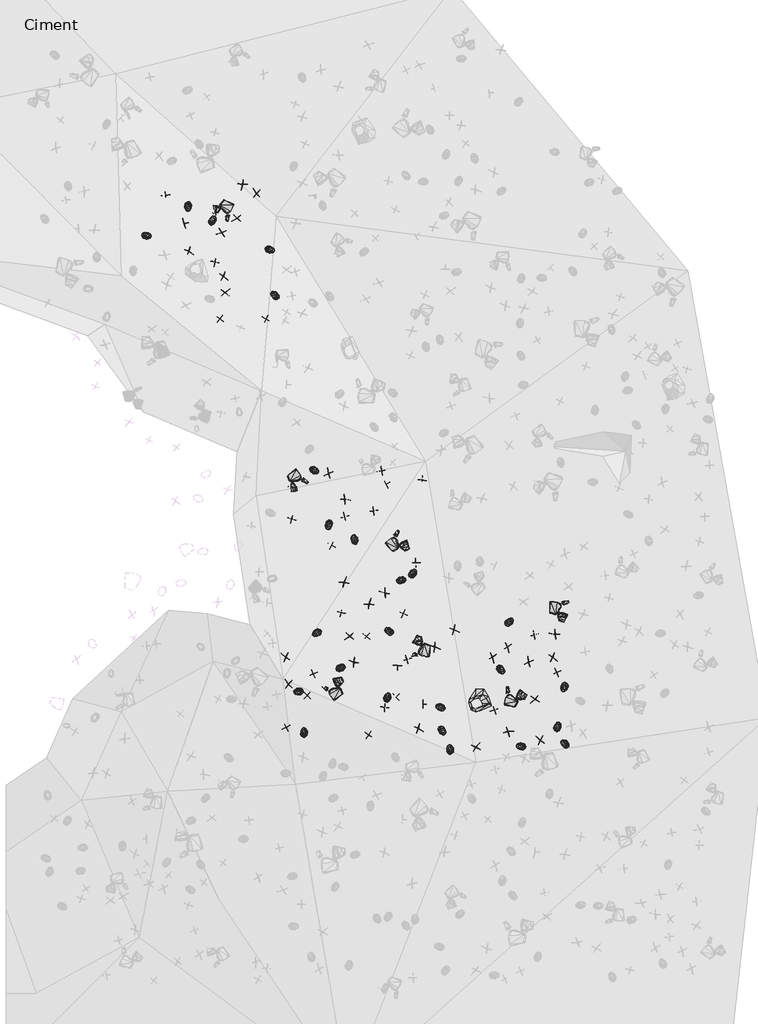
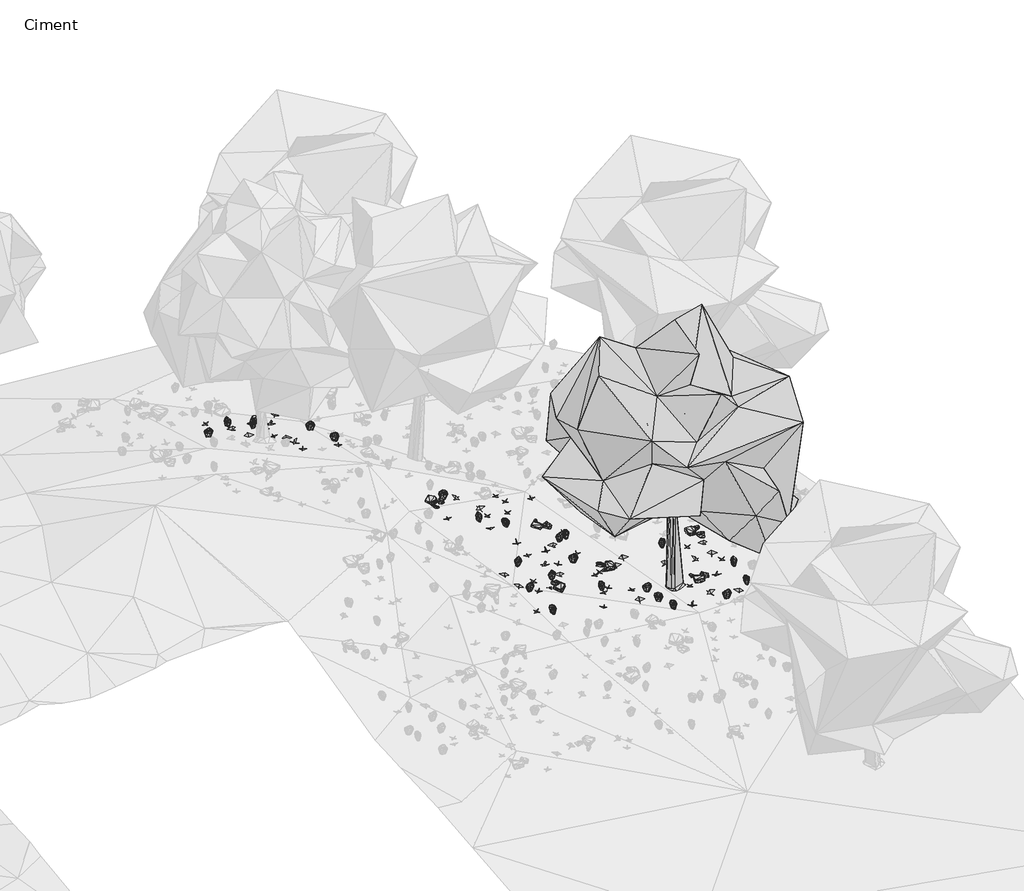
# One storey, part 26 of 30: 89 geographic elements.
"""IFC4 building model written with IfcOpenShell, lengths in millimetres."""

from ifc_helpers import new_model, si_unit, origin, place, context, project, spatial, transform, mapped, element, save
from components import enscape_assetdefinition_bush_025_fern_enscape_5718bf32, enscape_assetdefinition_bush_054_plant_09_version_2_enscape_7b546a12, enscape_assetdefinition_bush_062_plant_09_version_3_enscape_ccf8c8eb, enscape_assetdefinition_deciduous_tree_029_elm_enscape_e4c49baf, enscape_assetdefinition_stone_013_group_enscape_db9b3e91

model = new_model("IFC4")

# Units and contexts
model_context = context("Model", 3, world=origin())
ifc_project = project(units=[si_unit("LENGTHUNIT", "METRE", prefix="MILLI")], contexts=[model_context])

# Site, building, storey
site = spatial("IfcSite", under=ifc_project)
building = spatial("IfcBuilding", under=site)
storey = spatial("IfcBuildingStorey", under=building, Name="Ciment", Elevation=-1500.0)

# Geographic elements
placement = place(None, origin())
enscape_assetdefinition_bush_025_fern_enscape_shape = enscape_assetdefinition_bush_025_fern_enscape_5718bf32(model_context)
element("IfcGeographicElement", 1, ObjectType="Enscape AssetDefinition - Bush 025 Fern : Enscape AssetDefinition - Bush 025 Fern", at=placement, inside=storey, context=model_context, shape_type="MappedRepresentation", body=[
    mapped(enscape_assetdefinition_bush_025_fern_enscape_shape, transform((23926.2695312, 1776.0066986, -2337.3422623), x_axis=(-0.18273078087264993, -0.9831629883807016, 0.0), y_axis=(0.9831629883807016, -0.18273078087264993, 0.0), z_axis=(0.0, 0.0, 1.0))),
])
element("IfcGeographicElement", 2, ObjectType="Enscape AssetDefinition - Bush 025 Fern : Enscape AssetDefinition - Bush 025 Fern", at=placement, inside=storey, context=model_context, shape_type="MappedRepresentation", body=[
    mapped(enscape_assetdefinition_bush_025_fern_enscape_shape, transform((18059.5607758, 5916.6049957, -1291.4916277), x_axis=(-0.42482304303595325, 0.9052764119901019, 0.0), y_axis=(-0.9052764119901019, -0.42482304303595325, 0.0), z_axis=(0.0, 0.0, 1.0))),
])
element("IfcGeographicElement", 3, ObjectType="Enscape AssetDefinition - Bush 025 Fern : Enscape AssetDefinition - Bush 025 Fern", at=placement, inside=storey, context=model_context, shape_type="MappedRepresentation", body=[
    mapped(enscape_assetdefinition_bush_025_fern_enscape_shape, transform((19696.0964203, 4962.3126984, -1738.1078005), x_axis=(0.4772432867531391, 0.8787712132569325, 0.0), y_axis=(-0.8787712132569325, 0.4772432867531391, 0.0), z_axis=(0.0, 0.0, 1.0))),
])
element("IfcGeographicElement", 4, ObjectType="Enscape AssetDefinition - Bush 025 Fern : Enscape AssetDefinition - Bush 025 Fern", at=placement, inside=storey, context=model_context, shape_type="MappedRepresentation", body=[
    mapped(enscape_assetdefinition_bush_025_fern_enscape_shape, transform((16648.1685638, 517.5495148, -840.7158852), x_axis=(-0.15762662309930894, 0.9874987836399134, 0.0), y_axis=(-0.9874987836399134, -0.15762662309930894, 0.0), z_axis=(0.0, 0.0, 1.0))),
])
element("IfcGeographicElement", 5, ObjectType="Enscape AssetDefinition - Bush 025 Fern : Enscape AssetDefinition - Bush 025 Fern", at=placement, inside=storey, context=model_context, shape_type="MappedRepresentation", body=[
    mapped(enscape_assetdefinition_bush_025_fern_enscape_shape, transform((15694.0793991, 14011.3630295, -1689.8765564), x_axis=(0.9825996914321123, -0.18573595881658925, 0.0), y_axis=(0.18573595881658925, 0.9825996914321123, 0.0), z_axis=(0.0, 0.0, 1.0))),
])
element("IfcGeographicElement", 6, ObjectType="Enscape AssetDefinition - Bush 025 Fern : Enscape AssetDefinition - Bush 025 Fern", at=placement, inside=storey, context=model_context, shape_type="MappedRepresentation", body=[
    mapped(enscape_assetdefinition_bush_025_fern_enscape_shape, transform((22715.9519196, 129.0016174, -2159.6267223), x_axis=(-0.9994012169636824, 0.03460068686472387, 0.0), y_axis=(-0.03460068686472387, -0.9994012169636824, 0.0), z_axis=(0.0, 0.0, 1.0))),
])
element("IfcGeographicElement", 7, ObjectType="Enscape AssetDefinition - Bush 025 Fern : Enscape AssetDefinition - Bush 025 Fern", at=placement, inside=storey, context=model_context, shape_type="MappedRepresentation", body=[
    mapped(enscape_assetdefinition_bush_025_fern_enscape_shape, transform((17332.6911926, 6313.7497902, -1086.1005783), x_axis=(-0.059287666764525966, -0.9982409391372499, 0.0), y_axis=(0.9982409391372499, -0.059287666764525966, 0.0), z_axis=(0.0, 0.0, 1.0))),
])
element("IfcGeographicElement", 8, ObjectType="Enscape AssetDefinition - Bush 025 Fern : Enscape AssetDefinition - Bush 025 Fern", at=placement, inside=storey, context=model_context, shape_type="MappedRepresentation", body=[
    mapped(enscape_assetdefinition_bush_025_fern_enscape_shape, transform((14089.5290375, 14839.1876221, -1541.0094261), x_axis=(0.3726841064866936, 0.9279582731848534, 0.0), y_axis=(-0.9279582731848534, 0.3726841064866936, 0.0), z_axis=(0.0, 0.0, 1.0))),
])
element("IfcGeographicElement", 9, ObjectType="Enscape AssetDefinition - Bush 025 Fern : Enscape AssetDefinition - Bush 025 Fern", at=placement, inside=storey, context=model_context, shape_type="MappedRepresentation", body=[
    mapped(enscape_assetdefinition_bush_025_fern_enscape_shape, transform((16934.8773956, 7837.7389908, -1009.9309683), x_axis=(0.9416827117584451, -0.3365021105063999, 0.0), y_axis=(0.3365021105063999, 0.9416827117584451, 0.0), z_axis=(0.0, 0.0, 1.0))),
])
element("IfcGeographicElement", 10, ObjectType="Enscape AssetDefinition - Bush 025 Fern : Enscape AssetDefinition - Bush 025 Fern", at=placement, inside=storey, context=model_context, shape_type="MappedRepresentation", body=[
    mapped(enscape_assetdefinition_bush_025_fern_enscape_shape, transform((20458.5056305, 1223.9170074, -1778.7290812), x_axis=(-0.9866170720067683, 0.16305444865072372, 0.0), y_axis=(-0.16305444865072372, -0.9866170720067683, 0.0), z_axis=(0.0, 0.0, 1.0))),
])
element("IfcGeographicElement", 11, ObjectType="Enscape AssetDefinition - Bush 025 Fern : Enscape AssetDefinition - Bush 025 Fern", at=placement, inside=storey, context=model_context, shape_type="MappedRepresentation", body=[
    mapped(enscape_assetdefinition_bush_025_fern_enscape_shape, transform((18983.4918976, 1495.8802462, -1350.561142), x_axis=(0.21262860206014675, 0.977133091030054, 0.0), y_axis=(-0.977133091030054, 0.21262860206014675, 0.0), z_axis=(0.0, 0.0, 1.0))),
])
element("IfcGeographicElement", 12, ObjectType="Enscape AssetDefinition - Bush 025 Fern : Enscape AssetDefinition - Bush 025 Fern", at=placement, inside=storey, context=model_context, shape_type="MappedRepresentation", body=[
    mapped(enscape_assetdefinition_bush_025_fern_enscape_shape, transform((19022.6192474, 3351.5052795, -1455.4755688), x_axis=(-0.8870598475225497, 0.46165444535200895, 0.0), y_axis=(-0.46165444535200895, -0.8870598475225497, 0.0), z_axis=(0.0, 0.0, 1.0))),
])
element("IfcGeographicElement", 13, ObjectType="Enscape AssetDefinition - Bush 025 Fern : Enscape AssetDefinition - Bush 025 Fern", at=placement, inside=storey, context=model_context, shape_type="MappedRepresentation", body=[
    mapped(enscape_assetdefinition_bush_025_fern_enscape_shape, transform((22152.4944305, 2260.4525089, -2134.9875927), x_axis=(0.7563017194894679, -0.6542229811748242, 0.0), y_axis=(0.6542229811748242, 0.7563017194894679, 0.0), z_axis=(0.0, 0.0, 1.0))),
])
element("IfcGeographicElement", 14, ObjectType="Enscape AssetDefinition - Bush 025 Fern : Enscape AssetDefinition - Bush 025 Fern", at=placement, inside=storey, context=model_context, shape_type="MappedRepresentation", body=[
    mapped(enscape_assetdefinition_bush_025_fern_enscape_shape, transform((12240.2210236, 14400.5460739, -975.1880169), x_axis=(0.9999616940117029, -0.008752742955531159, 0.0), y_axis=(0.008752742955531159, 0.9999616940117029, 0.0), z_axis=(0.0, 0.0, 1.0))),
])
element("IfcGeographicElement", 15, ObjectType="Enscape AssetDefinition - Bush 025 Fern : Enscape AssetDefinition - Bush 025 Fern", at=placement, inside=storey, context=model_context, shape_type="MappedRepresentation", body=[
    mapped(enscape_assetdefinition_bush_025_fern_enscape_shape, transform((22392.7516937, 3604.7799587, -2190.659523), x_axis=(0.6478010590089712, 0.7618095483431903, 0.0), y_axis=(-0.7618095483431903, 0.6478010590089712, 0.0), z_axis=(0.0, 0.0, 1.0))),
])
element("IfcGeographicElement", 16, ObjectType="Enscape AssetDefinition - Bush 025 Fern : Enscape AssetDefinition - Bush 025 Fern", at=placement, inside=storey, context=model_context, shape_type="MappedRepresentation", body=[
    mapped(enscape_assetdefinition_bush_025_fern_enscape_shape, transform((19353.1131744, 4772.7069855, -1625.8480549), x_axis=(-0.9123148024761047, -0.40948956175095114, 0.0), y_axis=(0.40948956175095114, -0.9123148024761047, 0.0), z_axis=(0.0, 0.0, 1.0))),
])
element("IfcGeographicElement", 17, ObjectType="Enscape AssetDefinition - Bush 025 Fern : Enscape AssetDefinition - Bush 025 Fern", at=placement, inside=storey, context=model_context, shape_type="MappedRepresentation", body=[
    mapped(enscape_assetdefinition_bush_025_fern_enscape_shape, transform((15824.0299225, 12747.9019165, -1388.1953955), x_axis=(-0.817583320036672, 0.5758103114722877, 0.0), y_axis=(-0.5758103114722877, -0.817583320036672, 0.0), z_axis=(0.0, 0.0, 1.0))),
])
element("IfcGeographicElement", 18, ObjectType="Enscape AssetDefinition - Bush 025 Fern : Enscape AssetDefinition - Bush 025 Fern", at=placement, inside=storey, context=model_context, shape_type="MappedRepresentation", body=[
    mapped(enscape_assetdefinition_bush_025_fern_enscape_shape, transform((13393.5642242, 15216.2017822, -1475.5231142), x_axis=(0.059132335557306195, -0.998250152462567, 0.0), y_axis=(0.998250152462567, 0.059132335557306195, 0.0), z_axis=(0.0, 0.0, 1.0))),
])
element("IfcGeographicElement", 19, ObjectType="Enscape AssetDefinition - Bush 025 Fern : Enscape AssetDefinition - Bush 025 Fern", at=placement, inside=storey, context=model_context, shape_type="MappedRepresentation", body=[
    mapped(enscape_assetdefinition_bush_025_fern_enscape_shape, transform((16994.5888519, 3296.0319519, -845.2128172), x_axis=(-0.7621856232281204, -0.6473585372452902, 0.0), y_axis=(0.6473585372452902, -0.7621856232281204, 0.0), z_axis=(0.0, 0.0, 1.0))),
])
element("IfcGeographicElement", 20, ObjectType="Enscape AssetDefinition - Bush 025 Fern : Enscape AssetDefinition - Bush 025 Fern", at=placement, inside=storey, context=model_context, shape_type="MappedRepresentation", body=[
    mapped(enscape_assetdefinition_bush_025_fern_enscape_shape, transform((23945.9114075, 200.2258301, -2308.1035614), x_axis=(-0.8203707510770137, 0.5718319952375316, 0.0), y_axis=(-0.5718319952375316, -0.8203707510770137, 0.0), z_axis=(0.0, 0.0, 1.0))),
])
element("IfcGeographicElement", 21, ObjectType="Enscape AssetDefinition - Bush 025 Fern : Enscape AssetDefinition - Bush 025 Fern", at=placement, inside=storey, context=model_context, shape_type="MappedRepresentation", body=[
    mapped(enscape_assetdefinition_bush_025_fern_enscape_shape, transform((20507.5359344, 555.639267, -1759.8537207), x_axis=(0.6537257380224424, -0.7567315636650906, 0.0), y_axis=(0.7567315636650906, 0.6537257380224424, 0.0), z_axis=(0.0, 0.0, 1.0))),
])
element("IfcGeographicElement", 22, ObjectType="Enscape AssetDefinition - Bush 025 Fern : Enscape AssetDefinition - Bush 025 Fern", at=placement, inside=storey, context=model_context, shape_type="MappedRepresentation", body=[
    mapped(enscape_assetdefinition_bush_025_fern_enscape_shape, transform((20734.6668243, 45.1374054, -1802.2495508), x_axis=(-0.2131452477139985, 0.977020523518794, 0.0), y_axis=(-0.977020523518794, -0.2131452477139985, 0.0), z_axis=(0.0, 0.0, 1.0))),
])
element("IfcGeographicElement", 23, ObjectType="Enscape AssetDefinition - Bush 025 Fern : Enscape AssetDefinition - Bush 025 Fern", at=placement, inside=storey, context=model_context, shape_type="MappedRepresentation", body=[
    mapped(enscape_assetdefinition_bush_025_fern_enscape_shape, transform((23745.2220917, 672.9202867, -2293.5848236), x_axis=(0.23442882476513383, 0.9721332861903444, 0.0), y_axis=(-0.9721332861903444, 0.23442882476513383, 0.0), z_axis=(0.0, 0.0, 1.0))),
])
element("IfcGeographicElement", 24, ObjectType="Enscape AssetDefinition - Bush 025 Fern : Enscape AssetDefinition - Bush 025 Fern", at=placement, inside=storey, context=model_context, shape_type="MappedRepresentation", body=[
    mapped(enscape_assetdefinition_bush_025_fern_enscape_shape, transform((17680.4580688, 2321.105957, -1001.6955137), x_axis=(0.8185052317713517, 0.5744990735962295, 0.0), y_axis=(-0.5744990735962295, 0.8185052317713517, 0.0), z_axis=(0.0, 0.0, 1.0))),
])
element("IfcGeographicElement", 25, ObjectType="Enscape AssetDefinition - Bush 025 Fern : Enscape AssetDefinition - Bush 025 Fern", at=placement, inside=storey, context=model_context, shape_type="MappedRepresentation", body=[
    mapped(enscape_assetdefinition_bush_025_fern_enscape_shape, transform((16483.3049774, 1660.4385376, -639.56213), x_axis=(-0.9629672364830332, -0.2696184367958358, 0.0), y_axis=(0.2696184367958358, -0.9629672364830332, 0.0), z_axis=(0.0, 0.0, 1.0))),
])
enscape_assetdefinition_bush_054_plant_09_version_2_enscape_shape = enscape_assetdefinition_bush_054_plant_09_version_2_enscape_7b546a12(model_context)
element("IfcGeographicElement", 26, ObjectType="Enscape AssetDefinition - Bush 054 Plant 09, Version 2 : Enscape AssetDefinition - Bush 054 Plant 09, Version 2", at=placement, inside=storey, context=model_context, shape_type="MappedRepresentation", body=[
    mapped(enscape_assetdefinition_bush_054_plant_09_version_2_enscape_shape, transform((18594.3832397, 6717.1535492, -1491.9905663), x_axis=(-0.9810602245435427, -0.1937029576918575, 0.0), y_axis=(0.1937029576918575, -0.9810602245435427, 0.0), z_axis=(0.0, 0.0, 1.0))),
])
element("IfcGeographicElement", 27, ObjectType="Enscape AssetDefinition - Bush 054 Plant 09, Version 2 : Enscape AssetDefinition - Bush 054 Plant 09, Version 2", at=placement, inside=storey, context=model_context, shape_type="MappedRepresentation", body=[
    mapped(enscape_assetdefinition_bush_054_plant_09_version_2_enscape_shape, transform((18445.8522797, 440.0367737, -1239.6322489), x_axis=(0.8593515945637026, -0.5113852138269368, 0.0), y_axis=(0.5113852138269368, 0.8593515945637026, 0.0), z_axis=(0.0, 0.0, 1.0))),
])
element("IfcGeographicElement", 28, ObjectType="Enscape AssetDefinition - Bush 054 Plant 09, Version 2 : Enscape AssetDefinition - Bush 054 Plant 09, Version 2", at=placement, inside=storey, context=model_context, shape_type="MappedRepresentation", body=[
    mapped(enscape_assetdefinition_bush_054_plant_09_version_2_enscape_shape, transform((18943.605423, 7458.486557, -1632.7887774), x_axis=(-0.5025117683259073, 0.8645703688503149, 0.0), y_axis=(-0.8645703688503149, -0.5025117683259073, 0.0), z_axis=(0.0, 0.0, 1.0))),
])
element("IfcGeographicElement", 29, ObjectType="Enscape AssetDefinition - Bush 054 Plant 09, Version 2 : Enscape AssetDefinition - Bush 054 Plant 09, Version 2", at=placement, inside=storey, context=model_context, shape_type="MappedRepresentation", body=[
    mapped(enscape_assetdefinition_bush_054_plant_09_version_2_enscape_shape, transform((19428.8196564, 3839.2641544, -1601.6459465), x_axis=(-0.9502305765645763, 0.3115475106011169, 0.0), y_axis=(-0.3115475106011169, -0.9502305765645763, 0.0), z_axis=(0.0, 0.0, 1.0))),
])
element("IfcGeographicElement", 30, ObjectType="Enscape AssetDefinition - Bush 054 Plant 09, Version 2 : Enscape AssetDefinition - Bush 054 Plant 09, Version 2", at=placement, inside=storey, context=model_context, shape_type="MappedRepresentation", body=[
    mapped(enscape_assetdefinition_bush_054_plant_09_version_2_enscape_shape, transform((23725.8281708, 2197.5860596, -2321.8288422), x_axis=(-0.8953735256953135, -0.4453158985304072, 0.0), y_axis=(0.4453158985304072, -0.8953735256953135, 0.0), z_axis=(0.0, 0.0, 1.0))),
])
element("IfcGeographicElement", 31, ObjectType="Enscape AssetDefinition - Bush 054 Plant 09, Version 2 : Enscape AssetDefinition - Bush 054 Plant 09, Version 2", at=placement, inside=storey, context=model_context, shape_type="MappedRepresentation", body=[
    mapped(enscape_assetdefinition_bush_054_plant_09_version_2_enscape_shape, transform((17685.087204, 3862.7700806, -1080.5081129), x_axis=(0.14399629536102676, 0.9895782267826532, 0.0), y_axis=(-0.9895782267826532, 0.14399629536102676, 0.0), z_axis=(0.0, 0.0, 1.0))),
])
element("IfcGeographicElement", 32, ObjectType="Enscape AssetDefinition - Bush 054 Plant 09, Version 2 : Enscape AssetDefinition - Bush 054 Plant 09, Version 2", at=placement, inside=storey, context=model_context, shape_type="MappedRepresentation", body=[
    mapped(enscape_assetdefinition_bush_054_plant_09_version_2_enscape_shape, transform((14298.1510162, 12081.6993713, -806.8138361), x_axis=(-0.8342916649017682, 0.5513233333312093, 0.0), y_axis=(-0.5513233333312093, -0.8342916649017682, 0.0), z_axis=(0.0, 0.0, 1.0))),
])
element("IfcGeographicElement", 33, ObjectType="Enscape AssetDefinition - Bush 054 Plant 09, Version 2 : Enscape AssetDefinition - Bush 054 Plant 09, Version 2", at=placement, inside=storey, context=model_context, shape_type="MappedRepresentation", body=[
    mapped(enscape_assetdefinition_bush_054_plant_09_version_2_enscape_shape, transform((17419.008255, 5745.1171875, -1086.9287252), x_axis=(0.40912374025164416, 0.9124789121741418, 0.0), y_axis=(-0.9124789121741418, 0.40912374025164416, 0.0), z_axis=(0.0, 0.0, 1.0))),
])
element("IfcGeographicElement", 34, ObjectType="Enscape AssetDefinition - Bush 054 Plant 09, Version 2 : Enscape AssetDefinition - Bush 054 Plant 09, Version 2", at=placement, inside=storey, context=model_context, shape_type="MappedRepresentation", body=[
    mapped(enscape_assetdefinition_bush_054_plant_09_version_2_enscape_shape, transform((17773.0731964, 6547.4433899, -1231.9703102), x_axis=(0.30012493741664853, -0.9538999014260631, 0.0), y_axis=(0.9538999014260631, 0.30012493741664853, 0.0), z_axis=(0.0, 0.0, 1.0))),
])
element("IfcGeographicElement", 35, ObjectType="Enscape AssetDefinition - Bush 054 Plant 09, Version 2 : Enscape AssetDefinition - Bush 054 Plant 09, Version 2", at=placement, inside=storey, context=model_context, shape_type="MappedRepresentation", body=[
    mapped(enscape_assetdefinition_bush_054_plant_09_version_2_enscape_shape, transform((16740.8046722, 1549.9039888, -711.1096382), x_axis=(-0.759547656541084, 0.6504516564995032, 0.0), y_axis=(-0.6504516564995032, -0.759547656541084, 0.0), z_axis=(0.0, 0.0, 1.0))),
])
element("IfcGeographicElement", 36, ObjectType="Enscape AssetDefinition - Bush 054 Plant 09, Version 2 : Enscape AssetDefinition - Bush 054 Plant 09, Version 2", at=placement, inside=storey, context=model_context, shape_type="MappedRepresentation", body=[
    mapped(enscape_assetdefinition_bush_054_plant_09_version_2_enscape_shape, transform((15577.8560638, 12072.6957321, -1105.7622433), x_axis=(0.9057330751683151, -0.42384855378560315, 0.0), y_axis=(0.42384855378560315, 0.9057330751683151, 0.0), z_axis=(0.0, 0.0, 1.0))),
])
element("IfcGeographicElement", 37, ObjectType="Enscape AssetDefinition - Bush 054 Plant 09, Version 2 : Enscape AssetDefinition - Bush 054 Plant 09, Version 2", at=placement, inside=storey, context=model_context, shape_type="MappedRepresentation", body=[
    mapped(enscape_assetdefinition_bush_054_plant_09_version_2_enscape_shape, transform((18391.4546967, 3200.7007599, -1258.8430643), x_axis=(-0.5867618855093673, -0.8097595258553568, 0.0), y_axis=(0.8097595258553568, -0.5867618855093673, 0.0), z_axis=(0.0, 0.0, 1.0))),
])
element("IfcGeographicElement", 38, ObjectType="Enscape AssetDefinition - Bush 054 Plant 09, Version 2 : Enscape AssetDefinition - Bush 054 Plant 09, Version 2", at=placement, inside=storey, context=model_context, shape_type="MappedRepresentation", body=[
    mapped(enscape_assetdefinition_bush_054_plant_09_version_2_enscape_shape, transform((16150.5146027, 654.0851593, -732.2916985), x_axis=(-0.5086819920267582, 0.860954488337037, 0.0), y_axis=(-0.860954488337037, -0.5086819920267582, 0.0), z_axis=(0.0, 0.0, 1.0))),
])
element("IfcGeographicElement", 39, ObjectType="Enscape AssetDefinition - Bush 054 Plant 09, Version 2 : Enscape AssetDefinition - Bush 054 Plant 09, Version 2", at=placement, inside=storey, context=model_context, shape_type="MappedRepresentation", body=[
    mapped(enscape_assetdefinition_bush_054_plant_09_version_2_enscape_shape, transform((12774.5885849, 15530.5242538, -1411.5716219), x_axis=(-0.14578508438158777, 0.9893162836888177, 0.0), y_axis=(-0.9893162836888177, -0.14578508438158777, 0.0), z_axis=(0.0, 0.0, 1.0))),
])
element("IfcGeographicElement", 40, ObjectType="Enscape AssetDefinition - Bush 054 Plant 09, Version 2 : Enscape AssetDefinition - Bush 054 Plant 09, Version 2", at=placement, inside=storey, context=model_context, shape_type="MappedRepresentation", body=[
    mapped(enscape_assetdefinition_bush_054_plant_09_version_2_enscape_shape, transform((19968.5878754, 1301.2752533, -1635.8644962), x_axis=(0.9975278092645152, 0.07027282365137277, 0.0), y_axis=(-0.07027282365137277, 0.9975278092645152, 0.0), z_axis=(0.0, 0.0, 1.0))),
])
element("IfcGeographicElement", 41, ObjectType="Enscape AssetDefinition - Bush 054 Plant 09, Version 2 : Enscape AssetDefinition - Bush 054 Plant 09, Version 2", at=placement, inside=storey, context=model_context, shape_type="MappedRepresentation", body=[
    mapped(enscape_assetdefinition_bush_054_plant_09_version_2_enscape_shape, transform((19219.247818, 1508.6135864, -1421.8202829), x_axis=(-0.6849791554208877, -0.7285626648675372, 0.0), y_axis=(0.7285626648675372, -0.6849791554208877, 0.0), z_axis=(0.0, 0.0, 1.0))),
])
element("IfcGeographicElement", 42, ObjectType="Enscape AssetDefinition - Bush 054 Plant 09, Version 2 : Enscape AssetDefinition - Bush 054 Plant 09, Version 2", at=placement, inside=storey, context=model_context, shape_type="MappedRepresentation", body=[
    mapped(enscape_assetdefinition_bush_054_plant_09_version_2_enscape_shape, transform((16903.2802582, 2159.5497131, -760.7851028), x_axis=(-0.8983867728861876, -0.439205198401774, 0.0), y_axis=(0.439205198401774, -0.8983867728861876, 0.0), z_axis=(0.0, 0.0, 1.0))),
])
element("IfcGeographicElement", 43, ObjectType="Enscape AssetDefinition - Bush 054 Plant 09, Version 2 : Enscape AssetDefinition - Bush 054 Plant 09, Version 2", at=placement, inside=storey, context=model_context, shape_type="MappedRepresentation", body=[
    mapped(enscape_assetdefinition_bush_054_plant_09_version_2_enscape_shape, transform((18907.8731537, 1208.7898254, -1313.4925365), x_axis=(0.027645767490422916, 0.9996177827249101, 0.0), y_axis=(-0.9996177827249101, 0.027645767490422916, 0.0), z_axis=(0.0, 0.0, 1.0))),
])
element("IfcGeographicElement", 44, ObjectType="Enscape AssetDefinition - Bush 054 Plant 09, Version 2 : Enscape AssetDefinition - Bush 054 Plant 09, Version 2", at=placement, inside=storey, context=model_context, shape_type="MappedRepresentation", body=[
    mapped(enscape_assetdefinition_bush_054_plant_09_version_2_enscape_shape, transform((23089.0846252, 3248.1327057, -2266.7603493), x_axis=(-0.9654754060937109, -0.26049422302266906, 0.0), y_axis=(0.26049422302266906, -0.9654754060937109, 0.0), z_axis=(0.0, 0.0, 1.0))),
])
element("IfcGeographicElement", 45, ObjectType="Enscape AssetDefinition - Bush 054 Plant 09, Version 2 : Enscape AssetDefinition - Bush 054 Plant 09, Version 2", at=placement, inside=storey, context=model_context, shape_type="MappedRepresentation", body=[
    mapped(enscape_assetdefinition_bush_054_plant_09_version_2_enscape_shape, transform((18811.8667603, 7824.3227005, -1608.8409424), x_axis=(0.9712196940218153, 0.23818544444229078, 0.0), y_axis=(-0.23818544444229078, 0.9712196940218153, 0.0), z_axis=(0.0, 0.0, 1.0))),
])
element("IfcGeographicElement", 46, ObjectType="Enscape AssetDefinition - Bush 054 Plant 09, Version 2 : Enscape AssetDefinition - Bush 054 Plant 09, Version 2", at=placement, inside=storey, context=model_context, shape_type="MappedRepresentation", body=[
    mapped(enscape_assetdefinition_bush_054_plant_09_version_2_enscape_shape, transform((19527.5974274, 2560.8882904, -1567.0304298), x_axis=(-0.9439005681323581, -0.3302297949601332, 0.0), y_axis=(0.3302297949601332, -0.9439005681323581, 0.0), z_axis=(0.0, 0.0, 1.0))),
])
element("IfcGeographicElement", 47, ObjectType="Enscape AssetDefinition - Bush 054 Plant 09, Version 2 : Enscape AssetDefinition - Bush 054 Plant 09, Version 2", at=placement, inside=storey, context=model_context, shape_type="MappedRepresentation", body=[
    mapped(enscape_assetdefinition_bush_054_plant_09_version_2_enscape_shape, transform((21970.1442719, 1137.88414, -2090.6844139), x_axis=(0.9360986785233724, 0.35173749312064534, 0.0), y_axis=(-0.35173749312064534, 0.9360986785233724, 0.0), z_axis=(0.0, 0.0, 1.0))),
])
element("IfcGeographicElement", 48, ObjectType="Enscape AssetDefinition - Bush 054 Plant 09, Version 2 : Enscape AssetDefinition - Bush 054 Plant 09, Version 2", at=placement, inside=storey, context=model_context, shape_type="MappedRepresentation", body=[
    mapped(enscape_assetdefinition_bush_054_plant_09_version_2_enscape_shape, transform((19775.9799957, 5265.4933929, -1777.2630453), x_axis=(-0.9956531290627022, -0.09313885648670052, 0.0), y_axis=(0.09313885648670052, -0.9956531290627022, 0.0), z_axis=(0.0, 0.0, 1.0))),
])
element("IfcGeographicElement", 49, ObjectType="Enscape AssetDefinition - Bush 054 Plant 09, Version 2 : Enscape AssetDefinition - Bush 054 Plant 09, Version 2", at=placement, inside=storey, context=model_context, shape_type="MappedRepresentation", body=[
    mapped(enscape_assetdefinition_bush_054_plant_09_version_2_enscape_shape, transform((19269.3653107, 2375.8983612, -1480.388999), x_axis=(-0.03012597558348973, 0.9995461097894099, 0.0), y_axis=(-0.9995461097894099, -0.03012597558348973, 0.0), z_axis=(0.0, 0.0, 1.0))),
])
element("IfcGeographicElement", 50, ObjectType="Enscape AssetDefinition - Bush 054 Plant 09, Version 2 : Enscape AssetDefinition - Bush 054 Plant 09, Version 2", at=placement, inside=storey, context=model_context, shape_type="MappedRepresentation", body=[
    mapped(enscape_assetdefinition_bush_054_plant_09_version_2_enscape_shape, transform((14157.1407318, 13663.1584167, -1227.7369499), x_axis=(0.11453033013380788, 0.9934197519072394, 0.0), y_axis=(-0.9934197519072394, 0.11453033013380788, 0.0), z_axis=(0.0, 0.0, 1.0))),
])
element("IfcGeographicElement", 51, ObjectType="Enscape AssetDefinition - Bush 054 Plant 09, Version 2 : Enscape AssetDefinition - Bush 054 Plant 09, Version 2", at=placement, inside=storey, context=model_context, shape_type="MappedRepresentation", body=[
    mapped(enscape_assetdefinition_bush_054_plant_09_version_2_enscape_shape, transform((19944.8833466, 7578.122139, -1944.0020323), x_axis=(-0.04641508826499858, -0.9989222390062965, 0.0), y_axis=(0.9989222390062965, -0.04641508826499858, 0.0), z_axis=(0.0, 0.0, 1.0))),
])
element("IfcGeographicElement", 52, ObjectType="Enscape AssetDefinition - Bush 054 Plant 09, Version 2 : Enscape AssetDefinition - Bush 054 Plant 09, Version 2", at=placement, inside=storey, context=model_context, shape_type="MappedRepresentation", body=[
    mapped(enscape_assetdefinition_bush_054_plant_09_version_2_enscape_shape, transform((16302.9003143, 6478.7750244, -777.1478891), x_axis=(0.21581531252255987, 0.9764342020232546, 0.0), y_axis=(-0.9764342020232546, 0.21581531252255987, 0.0), z_axis=(0.0, 0.0, 1.0))),
])
enscape_assetdefinition_bush_062_plant_09_version_3_enscape_shape = enscape_assetdefinition_bush_062_plant_09_version_3_enscape_ccf8c8eb(model_context)
element("IfcGeographicElement", 53, ObjectType="Enscape AssetDefinition - Bush 062 Plant 09, Version 3 : Enscape AssetDefinition - Bush 062 Plant 09, Version 3", at=placement, inside=storey, context=model_context, shape_type="MappedRepresentation", body=[
    mapped(enscape_assetdefinition_bush_062_plant_09_version_3_enscape_shape, transform((23102.5066376, 1431.3373566, -2231.9469452), x_axis=(-0.8911326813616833, 0.453742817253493, 0.0), y_axis=(-0.453742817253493, -0.8911326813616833, 0.0), z_axis=(0.0, 0.0, 1.0))),
])
element("IfcGeographicElement", 54, ObjectType="Enscape AssetDefinition - Bush 062 Plant 09, Version 3 : Enscape AssetDefinition - Bush 062 Plant 09, Version 3", at=placement, inside=storey, context=model_context, shape_type="MappedRepresentation", body=[
    mapped(enscape_assetdefinition_bush_062_plant_09_version_3_enscape_shape, transform((22928.2073975, 2487.0779514, -2232.2711945), x_axis=(0.867514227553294, 0.4974123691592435, 0.0), y_axis=(-0.4974123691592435, 0.867514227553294, 0.0), z_axis=(0.0, 0.0, 1.0))),
])
element("IfcGeographicElement", 55, ObjectType="Enscape AssetDefinition - Bush 062 Plant 09, Version 3 : Enscape AssetDefinition - Bush 062 Plant 09, Version 3", at=placement, inside=storey, context=model_context, shape_type="MappedRepresentation", body=[
    mapped(enscape_assetdefinition_bush_062_plant_09_version_3_enscape_shape, transform((21918.8938141, 2605.8635712, -2113.9831543), x_axis=(-0.7915891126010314, -0.6110537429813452, 0.0), y_axis=(0.6110537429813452, -0.7915891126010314, 0.0), z_axis=(0.0, 0.0, 1.0))),
])
element("IfcGeographicElement", 56, ObjectType="Enscape AssetDefinition - Bush 062 Plant 09, Version 3 : Enscape AssetDefinition - Bush 062 Plant 09, Version 3", at=placement, inside=storey, context=model_context, shape_type="MappedRepresentation", body=[
    mapped(enscape_assetdefinition_bush_062_plant_09_version_3_enscape_shape, transform((23659.7690582, 3254.8522949, -2335.1240158), x_axis=(-0.20241165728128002, 0.9793005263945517, 0.0), y_axis=(-0.9793005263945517, -0.20241165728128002, 0.0), z_axis=(0.0, 0.0, 1.0))),
])
element("IfcGeographicElement", 57, ObjectType="Enscape AssetDefinition - Bush 062 Plant 09, Version 3 : Enscape AssetDefinition - Bush 062 Plant 09, Version 3", at=placement, inside=storey, context=model_context, shape_type="MappedRepresentation", body=[
    mapped(enscape_assetdefinition_bush_062_plant_09_version_3_enscape_shape, transform((18025.2437592, 2481.6608429, -1113.0360365), x_axis=(-0.034970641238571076, 0.9993883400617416, 0.0), y_axis=(-0.9993883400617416, -0.034970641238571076, 0.0), z_axis=(0.0, 0.0, 1.0))),
])
element("IfcGeographicElement", 58, ObjectType="Enscape AssetDefinition - Bush 062 Plant 09, Version 3 : Enscape AssetDefinition - Bush 062 Plant 09, Version 3", at=placement, inside=storey, context=model_context, shape_type="MappedRepresentation", body=[
    mapped(enscape_assetdefinition_bush_062_plant_09_version_3_enscape_shape, transform((22344.3927765, 2889.6903992, -2170.5439091), x_axis=(-0.7874609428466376, -0.6163645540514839, 0.0), y_axis=(0.6163645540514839, -0.7874609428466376, 0.0), z_axis=(0.0, 0.0, 1.0))),
])
element("IfcGeographicElement", 59, ObjectType="Enscape AssetDefinition - Bush 062 Plant 09, Version 3 : Enscape AssetDefinition - Bush 062 Plant 09, Version 3", at=placement, inside=storey, context=model_context, shape_type="MappedRepresentation", body=[
    mapped(enscape_assetdefinition_bush_062_plant_09_version_3_enscape_shape, transform((13272.8376389, 14747.8952408, -1318.9908266), x_axis=(-0.390131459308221, 0.9207591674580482, 0.0), y_axis=(-0.9207591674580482, -0.390131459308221, 0.0), z_axis=(0.0, 0.0, 1.0))),
])
element("IfcGeographicElement", 60, ObjectType="Enscape AssetDefinition - Bush 062 Plant 09, Version 3 : Enscape AssetDefinition - Bush 062 Plant 09, Version 3", at=placement, inside=storey, context=model_context, shape_type="MappedRepresentation", body=[
    mapped(enscape_assetdefinition_bush_062_plant_09_version_3_enscape_shape, transform((20851.9992828, 3386.6407871, -2002.0804405), x_axis=(-0.10968184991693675, -0.9939667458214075, 0.0), y_axis=(0.9939667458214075, -0.10968184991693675, 0.0), z_axis=(0.0, 0.0, 1.0))),
])
element("IfcGeographicElement", 61, ObjectType="Enscape AssetDefinition - Bush 062 Plant 09, Version 3 : Enscape AssetDefinition - Bush 062 Plant 09, Version 3", at=placement, inside=storey, context=model_context, shape_type="MappedRepresentation", body=[
    mapped(enscape_assetdefinition_bush_062_plant_09_version_3_enscape_shape, transform((17770.3113556, 4721.616745, -1148.622036), x_axis=(0.9996840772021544, 0.025134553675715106, 0.0), y_axis=(-0.025134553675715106, 0.9996840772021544, 0.0), z_axis=(0.0, 0.0, 1.0))),
])
element("IfcGeographicElement", 62, ObjectType="Enscape AssetDefinition - Bush 062 Plant 09, Version 3 : Enscape AssetDefinition - Bush 062 Plant 09, Version 3", at=placement, inside=storey, context=model_context, shape_type="MappedRepresentation", body=[
    mapped(enscape_assetdefinition_bush_062_plant_09_version_3_enscape_shape, transform((17913.0077362, 3192.7909851, -1115.1314974), x_axis=(-0.8238340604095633, 0.5668310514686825, 0.0), y_axis=(-0.5668310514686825, -0.8238340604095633, 0.0), z_axis=(0.0, 0.0, 1.0))),
])
element("IfcGeographicElement", 63, ObjectType="Enscape AssetDefinition - Bush 062 Plant 09, Version 3 : Enscape AssetDefinition - Bush 062 Plant 09, Version 3", at=placement, inside=storey, context=model_context, shape_type="MappedRepresentation", body=[
    mapped(enscape_assetdefinition_bush_062_plant_09_version_3_enscape_shape, transform((16202.7835846, 1868.9517975, -548.8529205), x_axis=(0.539077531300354, 0.8422561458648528, 0.0), y_axis=(-0.8422561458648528, 0.539077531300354, 0.0), z_axis=(0.0, 0.0, 1.0))),
])
element("IfcGeographicElement", 64, ObjectType="Enscape AssetDefinition - Bush 062 Plant 09, Version 3 : Enscape AssetDefinition - Bush 062 Plant 09, Version 3", at=placement, inside=storey, context=model_context, shape_type="MappedRepresentation", body=[
    mapped(enscape_assetdefinition_bush_062_plant_09_version_3_enscape_shape, transform((14440.8740997, 12826.0793686, -1054.2089939), x_axis=(0.857191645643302, -0.5149975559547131, 0.0), y_axis=(0.5149975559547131, 0.857191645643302, 0.0), z_axis=(0.0, 0.0, 1.0))),
])
element("IfcGeographicElement", 65, ObjectType="Enscape AssetDefinition - Bush 062 Plant 09, Version 3 : Enscape AssetDefinition - Bush 062 Plant 09, Version 3", at=placement, inside=storey, context=model_context, shape_type="MappedRepresentation", body=[
    mapped(enscape_assetdefinition_bush_062_plant_09_version_3_enscape_shape, transform((19858.3087921, 617.5422668, -1568.4922934), x_axis=(-0.18833805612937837, -0.9821042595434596, 0.0), y_axis=(0.9821042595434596, -0.18833805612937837, 0.0), z_axis=(0.0, 0.0, 1.0))),
])
element("IfcGeographicElement", 66, ObjectType="Enscape AssetDefinition - Bush 062 Plant 09, Version 3 : Enscape AssetDefinition - Bush 062 Plant 09, Version 3", at=placement, inside=storey, context=model_context, shape_type="MappedRepresentation", body=[
    mapped(enscape_assetdefinition_bush_062_plant_09_version_3_enscape_shape, transform((23247.8160858, 297.6760864, -2226.5956402), x_axis=(0.3756555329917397, 0.926759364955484, 0.0), y_axis=(-0.926759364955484, 0.3756555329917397, 0.0), z_axis=(0.0, 0.0, 1.0))),
])
element("IfcGeographicElement", 67, ObjectType="Enscape AssetDefinition - Bush 062 Plant 09, Version 3 : Enscape AssetDefinition - Bush 062 Plant 09, Version 3", at=placement, inside=storey, context=model_context, shape_type="MappedRepresentation", body=[
    mapped(enscape_assetdefinition_bush_062_plant_09_version_3_enscape_shape, transform((14400.4421234, 13264.3194199, -1170.5315113), x_axis=(-0.30242540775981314, -0.9531730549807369, 0.0), y_axis=(0.9531730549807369, -0.30242540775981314, 0.0), z_axis=(0.0, 0.0, 1.0))),
])
element("IfcGeographicElement", 68, ObjectType="Enscape AssetDefinition - Bush 062 Plant 09, Version 3 : Enscape AssetDefinition - Bush 062 Plant 09, Version 3", at=placement, inside=storey, context=model_context, shape_type="MappedRepresentation", body=[
    mapped(enscape_assetdefinition_bush_062_plant_09_version_3_enscape_shape, transform((23618.0591583, 2606.2619686, -2317.1365261), x_axis=(-0.31546809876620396, -0.9489361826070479, 0.0), y_axis=(0.9489361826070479, -0.31546809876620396, 0.0), z_axis=(0.0, 0.0, 1.0))),
])
element("IfcGeographicElement", 69, ObjectType="Enscape AssetDefinition - Bush 062 Plant 09, Version 3 : Enscape AssetDefinition - Bush 062 Plant 09, Version 3", at=placement, inside=storey, context=model_context, shape_type="MappedRepresentation", body=[
    mapped(enscape_assetdefinition_bush_062_plant_09_version_3_enscape_shape, transform((15306.520462, 15598.1016159, -2014.121294), x_axis=(0.5539560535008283, 0.8325459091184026, 0.0), y_axis=(-0.8325459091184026, 0.5539560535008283, 0.0), z_axis=(0.0, 0.0, 1.0))),
])
element("IfcGeographicElement", 70, ObjectType="Enscape AssetDefinition - Bush 062 Plant 09, Version 3 : Enscape AssetDefinition - Bush 062 Plant 09, Version 3", at=placement, inside=storey, context=model_context, shape_type="MappedRepresentation", body=[
    mapped(enscape_assetdefinition_bush_062_plant_09_version_3_enscape_shape, transform((17326.9138336, 7764.1706467, -1136.4938021), x_axis=(0.8527365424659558, 0.5223412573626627, 0.0), y_axis=(-0.5223412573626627, 0.8527365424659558, 0.0), z_axis=(0.0, 0.0, 1.0))),
])
element("IfcGeographicElement", 71, ObjectType="Enscape AssetDefinition - Bush 062 Plant 09, Version 3 : Enscape AssetDefinition - Bush 062 Plant 09, Version 3", at=placement, inside=storey, context=model_context, shape_type="MappedRepresentation", body=[
    mapped(enscape_assetdefinition_bush_062_plant_09_version_3_enscape_shape, transform((14761.8999481, 14887.7439499, -1716.5580988), x_axis=(-0.7897728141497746, 0.6133994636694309, 0.0), y_axis=(-0.6133994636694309, -0.7897728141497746, 0.0), z_axis=(0.0, 0.0, 1.0))),
])
element("IfcGeographicElement", 72, ObjectType="Enscape AssetDefinition - Bush 062 Plant 09, Version 3 : Enscape AssetDefinition - Bush 062 Plant 09, Version 3", at=placement, inside=storey, context=model_context, shape_type="MappedRepresentation", body=[
    mapped(enscape_assetdefinition_bush_062_plant_09_version_3_enscape_shape, transform((22368.1926727, 536.605835, -2126.2202263), x_axis=(0.4193761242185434, -0.9078125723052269, 0.0), y_axis=(0.9078125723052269, 0.4193761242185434, 0.0), z_axis=(0.0, 0.0, 1.0))),
])
element("IfcGeographicElement", 73, ObjectType="Enscape AssetDefinition - Bush 062 Plant 09, Version 3 : Enscape AssetDefinition - Bush 062 Plant 09, Version 3", at=placement, inside=storey, context=model_context, shape_type="MappedRepresentation", body=[
    mapped(enscape_assetdefinition_bush_062_plant_09_version_3_enscape_shape, transform((18898.9925385, 4414.4115448, -1471.8261957), x_axis=(-0.10867416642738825, 0.9940774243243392, 0.0), y_axis=(-0.9940774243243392, -0.10867416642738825, 0.0), z_axis=(0.0, 0.0, 1.0))),
])
element("IfcGeographicElement", 74, ObjectType="Enscape AssetDefinition - Bush 062 Plant 09, Version 3 : Enscape AssetDefinition - Bush 062 Plant 09, Version 3", at=placement, inside=storey, context=model_context, shape_type="MappedRepresentation", body=[
    mapped(enscape_assetdefinition_bush_062_plant_09_version_3_enscape_shape, transform((20319.1623688, 2900.4898071, -1821.1917877), x_axis=(-0.014359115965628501, -0.9998969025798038, 0.0), y_axis=(0.9998969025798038, -0.014359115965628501, 0.0), z_axis=(0.0, 0.0, 1.0))),
])
element("IfcGeographicElement", 75, ObjectType="Enscape AssetDefinition - Bush 062 Plant 09, Version 3 : Enscape AssetDefinition - Bush 062 Plant 09, Version 3", at=placement, inside=storey, context=model_context, shape_type="MappedRepresentation", body=[
    mapped(enscape_assetdefinition_bush_062_plant_09_version_3_enscape_shape, transform((14925.8098602, 15834.6786499, -2004.6896935), x_axis=(-0.995439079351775, -0.09539936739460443, 0.0), y_axis=(0.09539936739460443, -0.995439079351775, 0.0), z_axis=(0.0, 0.0, 1.0))),
])
element("IfcGeographicElement", 76, ObjectType="Enscape AssetDefinition - Bush 062 Plant 09, Version 3 : Enscape AssetDefinition - Bush 062 Plant 09, Version 3", at=placement, inside=storey, context=model_context, shape_type="MappedRepresentation", body=[
    mapped(enscape_assetdefinition_bush_062_plant_09_version_3_enscape_shape, transform((14329.9589157, 14486.9127274, -1503.2379627), x_axis=(-0.6350100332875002, 0.7725038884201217, 0.0), y_axis=(-0.7725038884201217, -0.6350100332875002, 0.0), z_axis=(0.0, 0.0, 1.0))),
])
element("IfcGeographicElement", 77, ObjectType="Enscape AssetDefinition - Bush 062 Plant 09, Version 3 : Enscape AssetDefinition - Bush 062 Plant 09, Version 3", at=placement, inside=storey, context=model_context, shape_type="MappedRepresentation", body=[
    mapped(enscape_assetdefinition_bush_062_plant_09_version_3_enscape_shape, transform((21462.5263214, 112.9341051, -2009.4504356), x_axis=(0.944187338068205, -0.32940897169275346, 0.0), y_axis=(0.32940897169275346, 0.944187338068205, 0.0), z_axis=(0.0, 0.0, 1.0))),
])
element("IfcGeographicElement", 78, ObjectType="Enscape AssetDefinition - Bush 062 Plant 09, Version 3 : Enscape AssetDefinition - Bush 062 Plant 09, Version 3", at=placement, inside=storey, context=model_context, shape_type="MappedRepresentation", body=[
    mapped(enscape_assetdefinition_bush_062_plant_09_version_3_enscape_shape, transform((18469.1143036, 4111.0057831, -1327.8230429), x_axis=(0.9978308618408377, 0.06582986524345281, 0.0), y_axis=(-0.06582986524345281, 0.9978308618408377, 0.0), z_axis=(0.0, 0.0, 1.0))),
])
element("IfcGeographicElement", 79, ObjectType="Enscape AssetDefinition - Bush 062 Plant 09, Version 3 : Enscape AssetDefinition - Bush 062 Plant 09, Version 3", at=placement, inside=storey, context=model_context, shape_type="MappedRepresentation", body=[
    mapped(enscape_assetdefinition_bush_062_plant_09_version_3_enscape_shape, transform((17796.8425751, 7039.5040512, -1261.5073919), x_axis=(0.2345507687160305, -0.9721038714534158, 0.0), y_axis=(0.9721038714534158, 0.2345507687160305, 0.0), z_axis=(0.0, 0.0, 1.0))),
])
element("IfcGeographicElement", 80, ObjectType="Enscape AssetDefinition - Bush 062 Plant 09, Version 3 : Enscape AssetDefinition - Bush 062 Plant 09, Version 3", at=placement, inside=storey, context=model_context, shape_type="MappedRepresentation", body=[
    mapped(enscape_assetdefinition_bush_062_plant_09_version_3_enscape_shape, transform((16120.4891205, 2621.7308044, -546.8209982), x_axis=(0.2888304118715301, 0.9573802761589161, 0.0), y_axis=(-0.9573802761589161, 0.2888304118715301, 0.0), z_axis=(0.0, 0.0, 1.0))),
])
element("IfcGeographicElement", 81, ObjectType="Enscape AssetDefinition - Bush 062 Plant 09, Version 3 : Enscape AssetDefinition - Bush 062 Plant 09, Version 3", at=placement, inside=storey, context=model_context, shape_type="MappedRepresentation", body=[
    mapped(enscape_assetdefinition_bush_062_plant_09_version_3_enscape_shape, transform((13429.6894073, 13961.8406296, -1142.1029568), x_axis=(-0.18557764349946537, -0.9826296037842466, 0.0), y_axis=(0.9826296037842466, -0.18557764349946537, 0.0), z_axis=(0.0, 0.0, 1.0))),
])
enscape_assetdefinition_deciduous_tree_029_elm_enscape_shape = enscape_assetdefinition_deciduous_tree_029_elm_enscape_e4c49baf(model_context)
element("IfcGeographicElement", 82, ObjectType="Enscape AssetDefinition - Deciduous Tree 029 Elm : Enscape AssetDefinition - Deciduous Tree 029 Elm", at=placement, inside=storey, context=model_context, shape_type="MappedRepresentation", body=[
    mapped(enscape_assetdefinition_deciduous_tree_029_elm_enscape_shape, transform((21536.7431641, 1350.0862122, -2043.1222916), x_axis=(0.0, 1.0, 0.0), y_axis=(-1.0, 0.0, 0.0), z_axis=(0.0, 0.0, 1.0))),
])
enscape_assetdefinition_stone_013_group_enscape_shape = enscape_assetdefinition_stone_013_group_enscape_db9b3e91(model_context)
element("IfcGeographicElement", 83, ObjectType="Enscape AssetDefinition - Stone 013 Group : Enscape AssetDefinition - Stone 013 Group 2", at=placement, inside=storey, context=model_context, shape_type="MappedRepresentation", body=[
    mapped(enscape_assetdefinition_stone_013_group_enscape_shape, transform((23816.0762787, 3969.410181, -2368.1349754), x_axis=(0.09504073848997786, 0.9954733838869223, 0.0), y_axis=(-0.9954733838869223, 0.09504073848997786, 0.0), z_axis=(0.0, 0.0, 1.0))),
])
element("IfcGeographicElement", 84, ObjectType="Enscape AssetDefinition - Stone 013 Group : Enscape AssetDefinition - Stone 013 Group 2", at=placement, inside=storey, context=model_context, shape_type="MappedRepresentation", body=[
    mapped(enscape_assetdefinition_stone_013_group_enscape_shape, transform((19875.2613068, 2848.6118317, -1685.6195927), x_axis=(-0.1578519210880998, -0.9874627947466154, 0.0), y_axis=(0.9874627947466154, -0.1578519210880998, 0.0), z_axis=(0.0, 0.0, 1.0))),
])
element("IfcGeographicElement", 85, ObjectType="Enscape AssetDefinition - Stone 013 Group : Enscape AssetDefinition - Stone 013 Group 2", at=placement, inside=storey, context=model_context, shape_type="MappedRepresentation", body=[
    mapped(enscape_assetdefinition_stone_013_group_enscape_shape, transform((22493.1278229, 1531.747818, -2161.1051559), x_axis=(-0.9648030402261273, 0.2629735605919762, 0.0), y_axis=(-0.2629735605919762, -0.9648030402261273, 0.0), z_axis=(0.0, 0.0, 1.0))),
])
element("IfcGeographicElement", 86, ObjectType="Enscape AssetDefinition - Stone 013 Group : Enscape AssetDefinition - Stone 013 Group 2", at=placement, inside=storey, context=model_context, shape_type="MappedRepresentation", body=[
    mapped(enscape_assetdefinition_stone_013_group_enscape_shape, transform((17462.4080658, 1750.1220703, -907.7050686), x_axis=(-0.840909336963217, -0.5411760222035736, 0.0), y_axis=(0.5411760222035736, -0.840909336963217, 0.0), z_axis=(0.0, 0.0, 1.0))),
])
element("IfcGeographicElement", 87, ObjectType="Enscape AssetDefinition - Stone 013 Group : Enscape AssetDefinition - Stone 013 Group 2", at=placement, inside=storey, context=model_context, shape_type="MappedRepresentation", body=[
    mapped(enscape_assetdefinition_stone_013_group_enscape_shape, transform((16448.3242035, 7539.2131805, -859.3012094), x_axis=(0.8278496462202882, 0.5609500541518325, 0.0), y_axis=(-0.5609500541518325, 0.8278496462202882, 0.0), z_axis=(0.0, 0.0, 1.0))),
])
element("IfcGeographicElement", 88, ObjectType="Enscape AssetDefinition - Stone 013 Group : Enscape AssetDefinition - Stone 013 Group 2", at=placement, inside=storey, context=model_context, shape_type="MappedRepresentation", body=[
    mapped(enscape_assetdefinition_stone_013_group_enscape_shape, transform((19258.1005096, 5859.0297699, -1651.9457102), x_axis=(-0.6154814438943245, 0.7881513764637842, 0.0), y_axis=(-0.7881513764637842, -0.6154814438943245, 0.0), z_axis=(0.0, 0.0, 1.0))),
])
element("IfcGeographicElement", 89, ObjectType="Enscape AssetDefinition - Stone 013 Group : Enscape AssetDefinition - Stone 013 Group 2", at=placement, inside=storey, context=model_context, shape_type="MappedRepresentation", body=[
    mapped(enscape_assetdefinition_stone_013_group_enscape_shape, transform((14390.7604218, 15096.5461731, -1683.7441921), x_axis=(0.8778654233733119, -0.4789074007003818, 0.0), y_axis=(0.4789074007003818, 0.8778654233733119, 0.0), z_axis=(0.0, 0.0, 1.0))),
])

save(model, "model.ifc")
